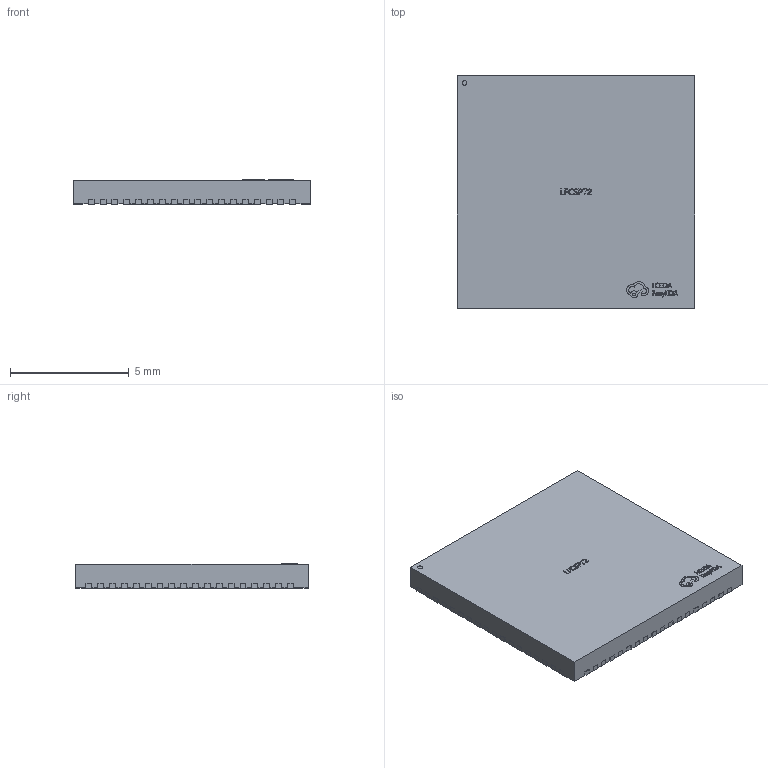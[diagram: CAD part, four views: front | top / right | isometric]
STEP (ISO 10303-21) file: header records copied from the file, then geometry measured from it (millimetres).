
FILE_DESCRIPTION (( 'STEP AP214' ), '1' );
FILE_NAME ('LFCSP-72_L10.0-W9.8-H1.0-P0.50.step', '2022-06-20T11:23:17', ( '' ), ( '' ), 'SwSTEP 2.0', 'SolidWorks 2020', '' );
FILE_SCHEMA (( 'AUTOMOTIVE_DESIGN' ));
Length unit declared in the file: millimetre
Products named in the file (1): LFCSP-72_L10.0-W9.8-H1.0-P0.50
Bounding box: 10.02 x 9.82 x 1.02 mm (x, y, z)
Volume: 98.4 mm3; surface area: 237.6 mm2
Topology: 1 solids, 1 shells, 829 faces, 2373 edges, 1582 vertices
Faces by surface type: plane 590, bspline 146, cylinder 93
Entity records: 34013 total; most frequent: CARTESIAN_POINT 9051, ORIENTED_EDGE 4746, DIRECTION 3631, EDGE_CURVE 2373, LINE 1891, VECTOR 1891, VERTEX_POINT 1582, AXIS2_PLACEMENT_3D 870
